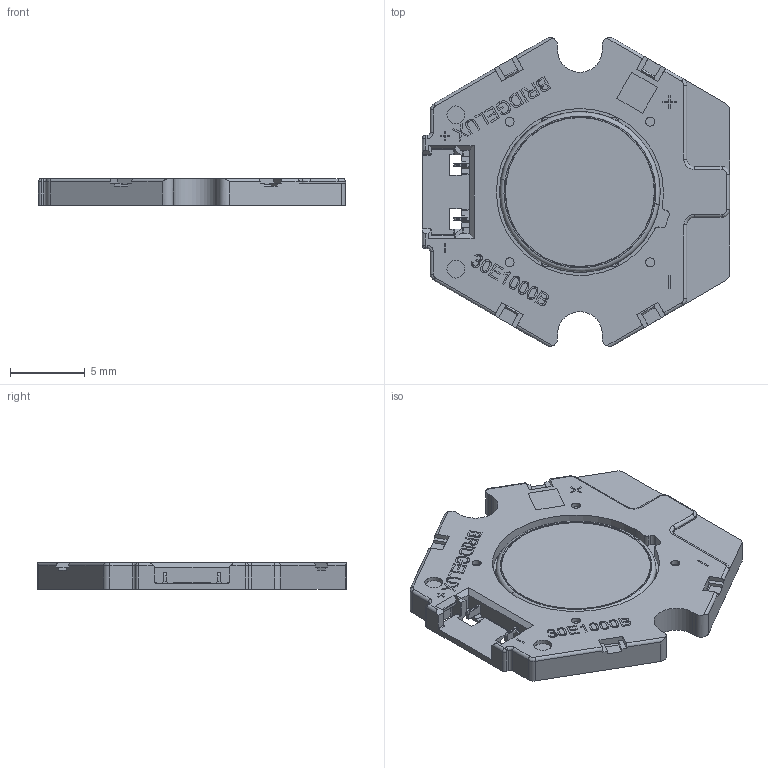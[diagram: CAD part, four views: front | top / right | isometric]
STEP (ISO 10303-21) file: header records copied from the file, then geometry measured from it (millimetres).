
FILE_DESCRIPTION (( 'STEP AP214' ), '1' );
FILE_NAME ('GEN8 Vero10.STEP', '2020-09-12T08:19:42', ( '' ), ( '' ), 'SwSTEP 2.0', 'SolidWorks 2018', '' );
FILE_SCHEMA (( 'AUTOMOTIVE_DESIGN' ));
Length unit declared in the file: millimetre
Products named in the file (1): GEN8 Vero10
Bounding box: 20.52 x 20.63 x 1.8 mm (x, y, z)
Volume: 489.6 mm3; surface area: 1086.5 mm2
Topology: 7 solids, 7 shells, 811 faces, 2150 edges, 1390 vertices
Faces by surface type: plane 434, cylinder 218, bspline 141, cone 12, torus 6
Entity records: 40650 total; most frequent: CARTESIAN_POINT 12228, ORIENTED_EDGE 4276, DIRECTION 3622, EDGE_CURVE 2138, VECTOR 1408, LINE 1408, VERTEX_POINT 1390, AXIS2_PLACEMENT_3D 1107
